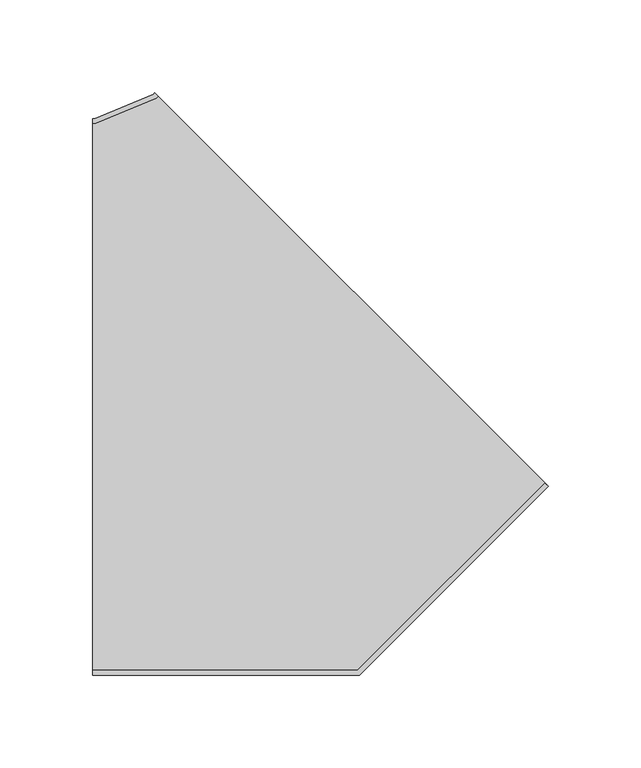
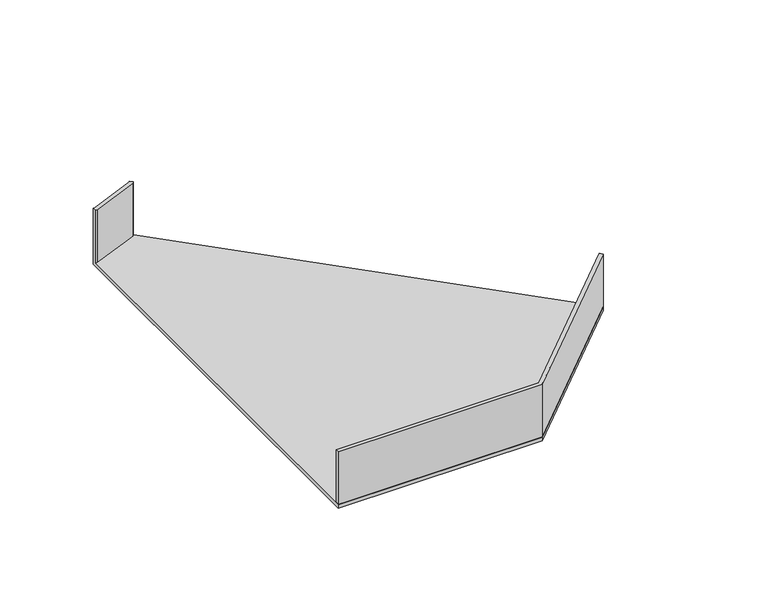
"""IFC4 building model written with IfcOpenShell, lengths in millimetres: cable carrier fitting geometry, BAKS_Horizontal bend : KKBL/KKMBL_H42."""

from ifc_helpers import new_model, si_unit, frame, origin, place, context, project, spatial, polyline, outline, extrude, faceted_brep, source, transform, mapped, element, save


def cable_carrier_fitting_ae8e9708(model_context):
    return source(origin(), model_context, "Body", "SolidModel", [
        faceted_brep([(-81.7716447, 147.46, 21.0), (-81.7716447, 150.0, 21.0), (-81.7716447, 150.0, -21.0), (-81.7716447, -150.0, -21.0), (-81.7716447, -150.0, -18.46), (-81.7716447, 147.46, -18.46), (-80.2664073, 147.46, 21.0), (-47.5130451, 161.0268868, 21.0), (-46.4486815, 162.0912504, 21.0), (-48.2447327, 163.8873016, 21.0), (-48.9518395, 163.1801948, 21.0), (-80.7716447, 150.0, 21.0), (-80.7716447, 150.0, -18.46), (-80.7716447, 150.0, -21.0), (-48.9518395, 163.1801948, -21.0), (-48.2447327, 163.8873016, -21.0), (163.8873016, -48.2447327, -21.0), (62.1320344, -150.0, -21.0), (-80.2664073, 147.46, -18.46), (-48.9518395, 163.1801948, -18.46), (-47.5130451, 161.0268868, -18.46), (-46.4486815, 162.0912504, -18.46), (163.8873016, -48.2447327, -18.46), (62.1320344, -150.0, -18.46)], [[[0, 1, 2, 3, 4, 5]], [[1, 0, 6, 7, 8, 9, 10, 11]], [[2, 1, 11, 12, 13]], [[3, 2, 13, 14, 15, 16, 17]], [[6, 0, 5, 18]], [[11, 10, 19, 14, 13, 12]], [[7, 6, 18, 20]], [[9, 8, 21, 22, 16, 15]], [[10, 9, 15, 14, 19]], [[8, 7, 20, 21]], [[4, 23, 22, 21, 20, 18, 5]], [[23, 4, 3, 17]], [[22, 23, 17, 16]]]),
        extrude(outline(polyline([(-81.7716447, -150.0), (-81.7716447, -147.46), (61.0799319, -147.46), (162.0912504, -46.4486815), (163.8873016, -48.2447327), (62.1320344, -150.0), (-81.7716447, -150.0)])), frame((0.0, 0.0, -21.0), z_axis=(0.0, 0.0, 1.0), x_axis=(1.0, 0.0, 0.0)), (0.0, 0.0, 1.0), 42.0),
    ])


if __name__ == "__main__":
    model = new_model("IFC4")
    model_context = context("Model", 3, world=origin())
    ifc_project = project(units=[si_unit("LENGTHUNIT", "METRE", prefix="MILLI")], contexts=[model_context])
    site = spatial("IfcSite", under=ifc_project)
    building = spatial("IfcBuilding", under=site)
    placement = place(None, origin())
    cable_carrier_fitting_shape = cable_carrier_fitting_ae8e9708(model_context)
    element("IfcCableCarrierFitting", 1, ObjectType="BAKS_Horizontal bend : KKBL/KKMBL_H42", at=placement, inside=building, context=model_context, shape_type="MappedRepresentation", body=[
        mapped(cable_carrier_fitting_shape, transform((0.0, 0.0, 0.0), x_axis=(1.0, 0.0, 0.0), y_axis=(0.0, 1.0, 0.0), z_axis=(0.0, 0.0, 1.0))),
    ])
    save(model, "model.ifc")
